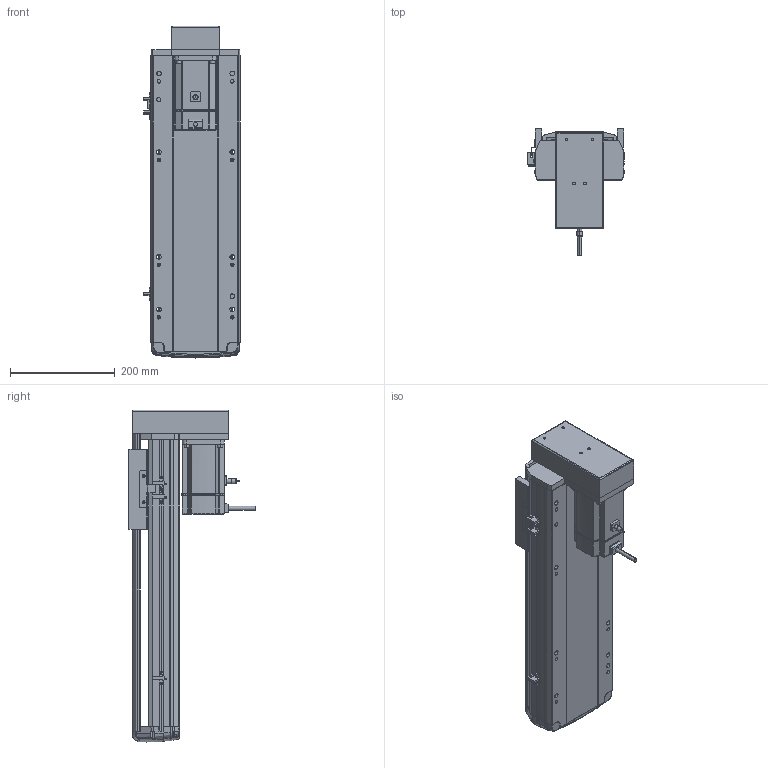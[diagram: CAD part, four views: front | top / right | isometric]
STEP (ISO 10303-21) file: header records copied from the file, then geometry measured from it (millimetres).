
FILE_DESCRIPTION (( 'STEP AP214' ), '1' );
FILE_NAME ('RTH17-XX-350-M-M75-C4.STEP', '2025-10-24T10:22:52', ( '' ), ( '' ), 'SwSTEP 2.0', 'SolidWorks 2018', '' );
FILE_SCHEMA (( 'AUTOMOTIVE_DESIGN' ));
Length unit declared in the file: millimetre
Products named in the file (10): N_RTH-BL-012 感应片(外置)^RTH17-XX-XX-M-M75-C4（方程式）; RTH17-XX-350-M-M75-C4; N_RTH17-M-011底座^RTH17-XX-XX-M-M75-C4（方程式）; N_OMRON EE-SX672 換覜ん^RTH17-XX-XX-M-M75-C4ㄗ源最宒ㄘ; N_M75^RTH17-XX-XX-M-M75-C4（方程式）; N_RTH17-M-007上盖^RTH17-XX-XX-M-M75-C4（方程式）; N_RTH17-GY-001P^RTH17-XX-XX-M-M75-C4（方程式）; N_RTH17-M-008-P75电机安装板下折750W^RTH17-XX-XX-M-M75-C4（方程式）; N_RTH17-E-004丝杆螺母连接座^RTH17-XX-XX-M-M75-C4（方程式）; N_RTH17-M-018盖子^RTH17-XX-XX-M-M75-C4（方程式）
Assembly tree (11 placements, depth 2):
  RTH17-XX-350-M-M75-C4
    N_RTH17-M-011底座^RTH17-XX-XX-M-M75-C4（方程式）
    N_RTH17-M-007上盖^RTH17-XX-XX-M-M75-C4（方程式）
    N_M75^RTH17-XX-XX-M-M75-C4（方程式）
    N_OMRON EE-SX672 換覜ん^RTH17-XX-XX-M-M75-C4ㄗ源最宒ㄘ  x3
    N_RTH-BL-012 感应片(外置)^RTH17-XX-XX-M-M75-C4（方程式）
    N_RTH17-M-008-P75电机安装板下折750W^RTH17-XX-XX-M-M75-C4（方程式）
    N_RTH17-M-018盖子^RTH17-XX-XX-M-M75-C4（方程式）
    N_RTH17-E-004丝杆螺母连接座^RTH17-XX-XX-M-M75-C4（方程式）
    N_RTH17-GY-001P^RTH17-XX-XX-M-M75-C4（方程式）
Bounding box: 183.5 x 240.7 x 633.27 mm (x, y, z)
Volume: 5768469.2 mm3; surface area: 851375.8 mm2
Topology: 10 solids, 12 shells, 1725 faces, 4742 edges, 3068 vertices
Faces by surface type: plane 826, cylinder 485, bspline 377, cone 28, torus 9
Entity records: 49931 total; most frequent: CARTESIAN_POINT 20012, ORIENTED_EDGE 6508, DIRECTION 5404, EDGE_CURVE 3258, VERTEX_POINT 2104, AXIS2_PLACEMENT_3D 1807, LINE 1790, VECTOR 1790
